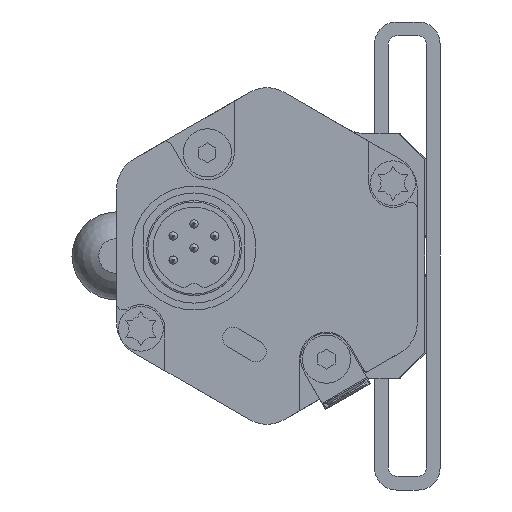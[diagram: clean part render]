
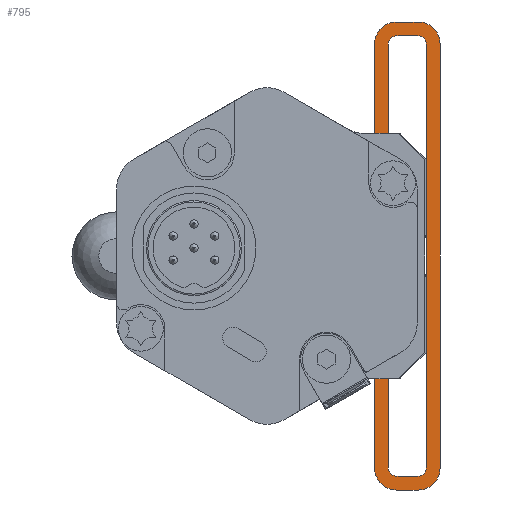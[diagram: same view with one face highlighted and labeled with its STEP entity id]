
A CAD part, left-side view. The second image highlights one B-rep face of the part: STEP entity #795.
In plain terms, the highlighted planar face has unit normal (-1, 0, 0).
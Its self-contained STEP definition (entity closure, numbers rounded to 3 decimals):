
#795 = ADVANCED_FACE( '', ( #1803 ), #1804, .F. );
#1803 = FACE_OUTER_BOUND( '', #2897, .T. );
#1804 = PLANE( '', #2898 );
#2897 = EDGE_LOOP( '', ( #6534, #6535, #6536, #6537, #6538, #6539, #6540, #6541, #6542, #6543, #6544, #6545, #6546, #6547, #6548, #6549, #6550, #6551, #6552, #6553 ) );
#2898 = AXIS2_PLACEMENT_3D( '', #6554, #6555, #6556 );
#6534 = ORIENTED_EDGE( '', *, *, #8170, .F. );
#6535 = ORIENTED_EDGE( '', *, *, #8221, .F. );
#6536 = ORIENTED_EDGE( '', *, *, #8222, .F. );
#6537 = ORIENTED_EDGE( '', *, *, #8164, .F. );
#6538 = ORIENTED_EDGE( '', *, *, #8160, .F. );
#6539 = ORIENTED_EDGE( '', *, *, #8167, .T. );
#6540 = ORIENTED_EDGE( '', *, *, #8219, .F. );
#6541 = ORIENTED_EDGE( '', *, *, #8216, .T. );
#6542 = ORIENTED_EDGE( '', *, *, #8213, .F. );
#6543 = ORIENTED_EDGE( '', *, *, #8208, .T. );
#6544 = ORIENTED_EDGE( '', *, *, #8205, .F. );
#6545 = ORIENTED_EDGE( '', *, *, #8202, .T. );
#6546 = ORIENTED_EDGE( '', *, *, #8199, .F. );
#6547 = ORIENTED_EDGE( '', *, *, #8195, .F. );
#6548 = ORIENTED_EDGE( '', *, *, #8192, .F. );
#6549 = ORIENTED_EDGE( '', *, *, #8188, .F. );
#6550 = ORIENTED_EDGE( '', *, *, #8185, .F. );
#6551 = ORIENTED_EDGE( '', *, *, #8182, .F. );
#6552 = ORIENTED_EDGE( '', *, *, #8179, .F. );
#6553 = ORIENTED_EDGE( '', *, *, #8174, .F. );
#6554 = CARTESIAN_POINT( '', ( -7.25, 3.175, 30.825 ) );
#6555 = DIRECTION( '', ( 1., 0., 0. ) );
#6556 = DIRECTION( '', ( 0., 0., -1. ) );
#8160 = EDGE_CURVE( '', #10154, #10155, #10156, .T. );
#8164 = EDGE_CURVE( '', #10155, #10162, #10163, .T. );
#8167 = EDGE_CURVE( '', #10154, #10167, #10168, .T. );
#8170 = EDGE_CURVE( '', #10172, #10173, #10174, .T. );
#8174 = EDGE_CURVE( '', #10173, #10180, #10181, .T. );
#8179 = EDGE_CURVE( '', #10180, #10189, #10190, .T. );
#8182 = EDGE_CURVE( '', #10189, #10194, #10195, .T. );
#8185 = EDGE_CURVE( '', #10194, #10199, #10200, .T. );
#8188 = EDGE_CURVE( '', #10199, #10204, #10205, .T. );
#8192 = EDGE_CURVE( '', #10204, #10211, #10212, .T. );
#8195 = EDGE_CURVE( '', #10211, #10216, #10217, .T. );
#8199 = EDGE_CURVE( '', #10216, #10223, #10224, .T. );
#8202 = EDGE_CURVE( '', #10228, #10223, #10229, .T. );
#8205 = EDGE_CURVE( '', #10228, #10233, #10234, .T. );
#8208 = EDGE_CURVE( '', #10238, #10233, #10239, .T. );
#8213 = EDGE_CURVE( '', #10238, #10247, #10248, .T. );
#8216 = EDGE_CURVE( '', #10252, #10247, #10253, .T. );
#8219 = EDGE_CURVE( '', #10252, #10167, #10257, .T. );
#8221 = EDGE_CURVE( '', #10259, #10172, #10260, .T. );
#8222 = EDGE_CURVE( '', #10162, #10259, #10261, .T. );
#10154 = VERTEX_POINT( '', #13292 );
#10155 = VERTEX_POINT( '', #13293 );
#10156 = LINE( '', #13294, #13295 );
#10162 = VERTEX_POINT( '', #13304 );
#10163 = LINE( '', #13305, #13306 );
#10167 = VERTEX_POINT( '', #13312 );
#10168 = CIRCLE( '', #13313, 1.25 );
#10172 = VERTEX_POINT( '', #13318 );
#10173 = VERTEX_POINT( '', #13319 );
#10174 = LINE( '', #13320, #13321 );
#10180 = VERTEX_POINT( '', #13330 );
#10181 = CIRCLE( '', #13331, 3.175 );
#10189 = VERTEX_POINT( '', #13340 );
#10190 = LINE( '', #13341, #13342 );
#10194 = VERTEX_POINT( '', #13348 );
#10195 = CIRCLE( '', #13349, 3.175 );
#10199 = VERTEX_POINT( '', #13354 );
#10200 = LINE( '', #13355, #13356 );
#10204 = VERTEX_POINT( '', #13362 );
#10205 = CIRCLE( '', #13363, 3.175 );
#10211 = VERTEX_POINT( '', #13370 );
#10212 = LINE( '', #13371, #13372 );
#10216 = VERTEX_POINT( '', #13378 );
#10217 = LINE( '', #13379, #13380 );
#10223 = VERTEX_POINT( '', #13388 );
#10224 = LINE( '', #13389, #13390 );
#10228 = VERTEX_POINT( '', #13396 );
#10229 = CIRCLE( '', #13397, 1.25 );
#10233 = VERTEX_POINT( '', #13402 );
#10234 = LINE( '', #13403, #13404 );
#10238 = VERTEX_POINT( '', #13410 );
#10239 = CIRCLE( '', #13411, 1.25 );
#10247 = VERTEX_POINT( '', #13420 );
#10248 = LINE( '', #13421, #13422 );
#10252 = VERTEX_POINT( '', #13428 );
#10253 = CIRCLE( '', #13429, 1.25 );
#10257 = LINE( '', #13434, #13435 );
#10259 = VERTEX_POINT( '', #13438 );
#10260 = CIRCLE( '', #13439, 3.175 );
#10261 = LINE( '', #13440, #13441 );
#13292 = CARTESIAN_POINT( '', ( -7.25, 7.5, 30.75 ) );
#13293 = CARTESIAN_POINT( '', ( -7.25, 7.5, 13.75 ) );
#13294 = CARTESIAN_POINT( '', ( -7.25, 7.5, 30.75 ) );
#13295 = VECTOR( '', #15388, 1000. );
#13304 = CARTESIAN_POINT( '', ( -7.25, 9.5, 13.75 ) );
#13305 = CARTESIAN_POINT( '', ( -7.25, 7.5, 13.75 ) );
#13306 = VECTOR( '', #15392, 1000. );
#13312 = CARTESIAN_POINT( '', ( -7.25, 6.25, 32. ) );
#13313 = AXIS2_PLACEMENT_3D( '', #15395, #15396, #15397 );
#13318 = CARTESIAN_POINT( '', ( -7.25, 6.325, 34. ) );
#13319 = CARTESIAN_POINT( '', ( -7.25, 3.175, 34. ) );
#13320 = CARTESIAN_POINT( '', ( -7.25, 6.325, 34. ) );
#13321 = VECTOR( '', #15402, 1000. );
#13330 = CARTESIAN_POINT( '', ( -7.25, 0., 30.825 ) );
#13331 = AXIS2_PLACEMENT_3D( '', #15406, #15407, #15408 );
#13340 = CARTESIAN_POINT( '', ( -7.25, 0., -30.825 ) );
#13341 = CARTESIAN_POINT( '', ( -7.25, 0., 30.825 ) );
#13342 = VECTOR( '', #15419, 1000. );
#13348 = CARTESIAN_POINT( '', ( -7.25, 3.175, -34. ) );
#13349 = AXIS2_PLACEMENT_3D( '', #15422, #15423, #15424 );
#13354 = CARTESIAN_POINT( '', ( -7.25, 6.325, -34. ) );
#13355 = CARTESIAN_POINT( '', ( -7.25, 3.175, -34. ) );
#13356 = VECTOR( '', #15429, 1000. );
#13362 = CARTESIAN_POINT( '', ( -7.25, 9.5, -30.825 ) );
#13363 = AXIS2_PLACEMENT_3D( '', #15432, #15433, #15434 );
#13370 = CARTESIAN_POINT( '', ( -7.25, 9.5, -13.75 ) );
#13371 = CARTESIAN_POINT( '', ( -7.25, 9.5, -30.825 ) );
#13372 = VECTOR( '', #15442, 1000. );
#13378 = CARTESIAN_POINT( '', ( -7.25, 7.5, -13.75 ) );
#13379 = CARTESIAN_POINT( '', ( -7.25, 9.5, -13.75 ) );
#13380 = VECTOR( '', #15445, 1000. );
#13388 = CARTESIAN_POINT( '', ( -7.25, 7.5, -30.75 ) );
#13389 = CARTESIAN_POINT( '', ( -7.25, 7.5, -13.75 ) );
#13390 = VECTOR( '', #15451, 1000. );
#13396 = CARTESIAN_POINT( '', ( -7.25, 6.25, -32. ) );
#13397 = AXIS2_PLACEMENT_3D( '', #15454, #15455, #15456 );
#13402 = CARTESIAN_POINT( '', ( -7.25, 3.25, -32. ) );
#13403 = CARTESIAN_POINT( '', ( -7.25, 6.25, -32. ) );
#13404 = VECTOR( '', #15461, 1000. );
#13410 = CARTESIAN_POINT( '', ( -7.25, 2., -30.75 ) );
#13411 = AXIS2_PLACEMENT_3D( '', #15464, #15465, #15466 );
#13420 = CARTESIAN_POINT( '', ( -7.25, 2., 30.75 ) );
#13421 = CARTESIAN_POINT( '', ( -7.25, 2., -30.75 ) );
#13422 = VECTOR( '', #15477, 1000. );
#13428 = CARTESIAN_POINT( '', ( -7.25, 3.25, 32. ) );
#13429 = AXIS2_PLACEMENT_3D( '', #15480, #15481, #15482 );
#13434 = CARTESIAN_POINT( '', ( -7.25, 3.25, 32. ) );
#13435 = VECTOR( '', #15487, 1000. );
#13438 = CARTESIAN_POINT( '', ( -7.25, 9.5, 30.825 ) );
#13439 = AXIS2_PLACEMENT_3D( '', #15489, #15490, #15491 );
#13440 = CARTESIAN_POINT( '', ( -7.25, 9.5, 13.75 ) );
#13441 = VECTOR( '', #15492, 1000. );
#15388 = DIRECTION( '', ( 0., 0., -1. ) );
#15392 = DIRECTION( '', ( 0., 1., 0. ) );
#15395 = CARTESIAN_POINT( '', ( -7.25, 6.25, 30.75 ) );
#15396 = DIRECTION( '', ( 1., 0., 0. ) );
#15397 = DIRECTION( '', ( 0., 0., -1. ) );
#15402 = DIRECTION( '', ( 0., -1., 0. ) );
#15406 = CARTESIAN_POINT( '', ( -7.25, 3.175, 30.825 ) );
#15407 = DIRECTION( '', ( 1., 0., 0. ) );
#15408 = DIRECTION( '', ( 0., 0., -1. ) );
#15419 = DIRECTION( '', ( 0., 0., -1. ) );
#15422 = CARTESIAN_POINT( '', ( -7.25, 3.175, -30.825 ) );
#15423 = DIRECTION( '', ( 1., 0., 0. ) );
#15424 = DIRECTION( '', ( 0., 0., -1. ) );
#15429 = DIRECTION( '', ( 0., 1., 0. ) );
#15432 = CARTESIAN_POINT( '', ( -7.25, 6.325, -30.825 ) );
#15433 = DIRECTION( '', ( 1., 0., 0. ) );
#15434 = DIRECTION( '', ( 0., 0., -1. ) );
#15442 = DIRECTION( '', ( 0., 0., 1. ) );
#15445 = DIRECTION( '', ( 0., -1., 0. ) );
#15451 = DIRECTION( '', ( 0., 0., -1. ) );
#15454 = CARTESIAN_POINT( '', ( -7.25, 6.25, -30.75 ) );
#15455 = DIRECTION( '', ( 1., 0., 0. ) );
#15456 = DIRECTION( '', ( 0., 0., -1. ) );
#15461 = DIRECTION( '', ( 0., -1., 0. ) );
#15464 = CARTESIAN_POINT( '', ( -7.25, 3.25, -30.75 ) );
#15465 = DIRECTION( '', ( 1., 0., 0. ) );
#15466 = DIRECTION( '', ( 0., 0., -1. ) );
#15477 = DIRECTION( '', ( 0., 0., 1. ) );
#15480 = CARTESIAN_POINT( '', ( -7.25, 3.25, 30.75 ) );
#15481 = DIRECTION( '', ( 1., 0., 0. ) );
#15482 = DIRECTION( '', ( 0., 0., -1. ) );
#15487 = DIRECTION( '', ( 0., 1., 0. ) );
#15489 = CARTESIAN_POINT( '', ( -7.25, 6.325, 30.825 ) );
#15490 = DIRECTION( '', ( 1., 0., 0. ) );
#15491 = DIRECTION( '', ( 0., 0., -1. ) );
#15492 = DIRECTION( '', ( 0., 0., 1. ) );
